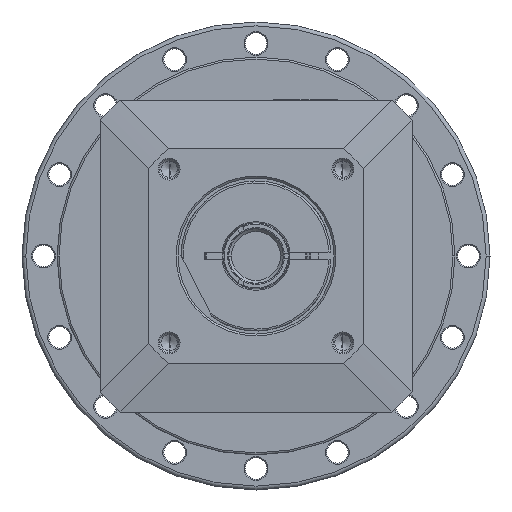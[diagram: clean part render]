
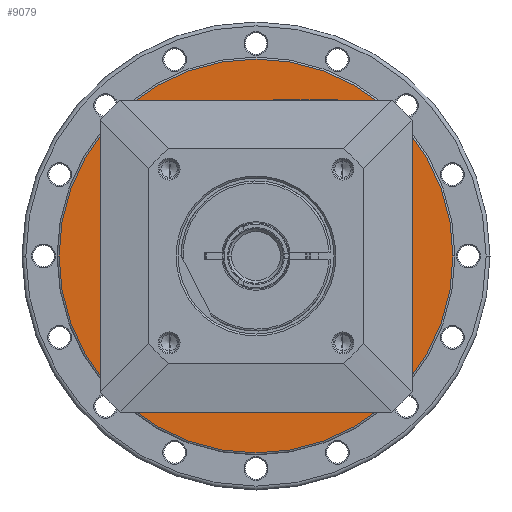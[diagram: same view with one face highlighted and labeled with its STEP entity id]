
A CAD part, left-side view. The second image highlights one B-rep face of the part: STEP entity #9079.
In plain terms, the highlighted planar face has unit normal (-1, 0, 0) as drawn and (1, 0, 0) by its records, which use the part's own axes.
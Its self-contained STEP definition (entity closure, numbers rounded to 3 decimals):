
#8558=CARTESIAN_POINT('',(-10.5,0.,0.));
#8559=DIRECTION('',(-1.,0.,0.));
#8560=DIRECTION('',(0.,-1.,0.));
#8561=AXIS2_PLACEMENT_3D('',#8558,#8559,#8560);
#8563=CARTESIAN_POINT('',(-10.5,0.,0.));
#8564=DIRECTION('',(-1.,0.,0.));
#8565=DIRECTION('',(0.,1.,0.));
#8566=AXIS2_PLACEMENT_3D('',#8563,#8564,#8565);
#8568=CARTESIAN_POINT('',(-10.5,0.,0.));
#8569=DIRECTION('',(-1.,0.,0.));
#8570=DIRECTION('',(0.,-1.,0.));
#8571=AXIS2_PLACEMENT_3D('',#8568,#8569,#8570);
#8573=CARTESIAN_POINT('',(-10.5,0.,0.));
#8574=DIRECTION('',(-1.,0.,0.));
#8575=DIRECTION('',(0.,1.,0.));
#8576=AXIS2_PLACEMENT_3D('',#8573,#8574,#8575);
#8642=CARTESIAN_POINT('',(-10.5,-50.5,0.));
#8643=CARTESIAN_POINT('',(-10.5,50.5,0.));
#8644=VERTEX_POINT('',#8642);
#8645=VERTEX_POINT('',#8643);
#8666=CARTESIAN_POINT('',(-10.5,-38.,0.));
#8667=CARTESIAN_POINT('',(-10.5,38.,0.));
#8668=VERTEX_POINT('',#8666);
#8669=VERTEX_POINT('',#8667);
#9064=CARTESIAN_POINT('',(-10.5,0.,0.));
#9065=DIRECTION('',(1.,0.,0.));
#9066=DIRECTION('',(0.,-1.,0.));
#9067=AXIS2_PLACEMENT_3D('',#9064,#9065,#9066);
#9068=PLANE('',#9067);
#9069=ORIENTED_EDGE('',*,*,#9005,.T.);
#9070=ORIENTED_EDGE('',*,*,#9020,.T.);
#9071=EDGE_LOOP('',(#9069,#9070));
#9072=FACE_OUTER_BOUND('',#9071,.F.);
#9074=ORIENTED_EDGE('',*,*,#9073,.F.);
#9076=ORIENTED_EDGE('',*,*,#9075,.F.);
#9077=EDGE_LOOP('',(#9074,#9076));
#9078=FACE_BOUND('',#9077,.F.);
#8562=CIRCLE('',#8561,38.);
#8567=CIRCLE('',#8566,38.);
#8572=CIRCLE('',#8571,50.5);
#8577=CIRCLE('',#8576,50.5);
#9005=EDGE_CURVE('',#8644,#8645,#8572,.T.);
#9020=EDGE_CURVE('',#8645,#8644,#8577,.T.);
#9073=EDGE_CURVE('',#8668,#8669,#8562,.T.);
#9075=EDGE_CURVE('',#8669,#8668,#8567,.T.);
#9079=ADVANCED_FACE('',(#9072,#9078),#9068,.T.);
